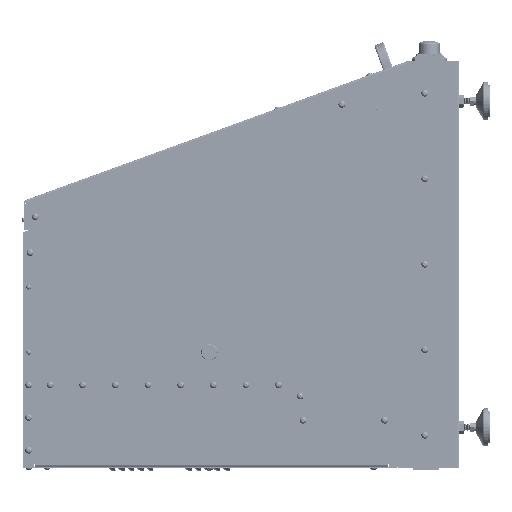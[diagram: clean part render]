
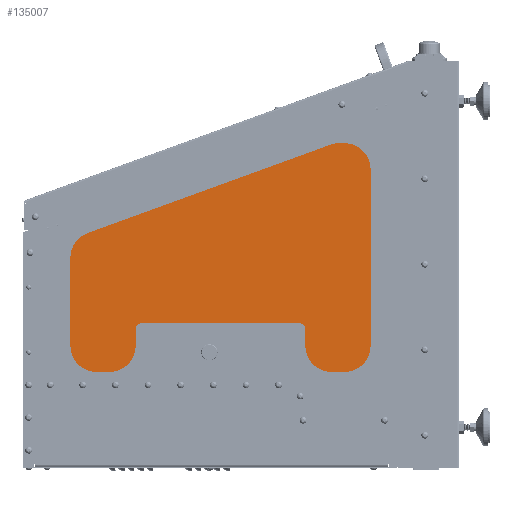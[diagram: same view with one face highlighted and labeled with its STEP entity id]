
A CAD part, left-side view. The second image highlights one B-rep face of the part: STEP entity #135007.
In plain terms, the highlighted planar face has unit normal (-1, 0, 0).
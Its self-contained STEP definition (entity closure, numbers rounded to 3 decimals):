
#78347 = DIRECTION ( 'NONE',  ( 0., -1., 0. ) ) ;
#78348 = VECTOR ( 'NONE', #78347, 1000. ) ;
#78349 = CARTESIAN_POINT ( 'NONE',  ( -328.028, -96.867, -105.254 ) ) ;
#78350 = LINE ( 'NONE', #78349, #78348 ) ;
#78352 = CARTESIAN_POINT ( 'NONE',  ( -328.028, -96.867, -105.254 ) ) ;
#78380 = DIRECTION ( 'NONE',  ( 0., 0., -1. ) ) ;
#78381 = DIRECTION ( 'NONE',  ( 1., 0., 0. ) ) ;
#78382 = CARTESIAN_POINT ( 'NONE',  ( -328.028, 101.133, -443.754 ) ) ;
#78383 = AXIS2_PLACEMENT_3D ( 'NONE', #78382, #78381, #78380 ) ;
#78384 = CIRCLE ( 'NONE', #78383, 17.5 ) ;
#78410 = CARTESIAN_POINT ( 'NONE',  ( -328.028, -161.867, -105.254 ) ) ;
#78415 = CARTESIAN_POINT ( 'NONE',  ( -328.028, -161.867, -485.754 ) ) ;
#78436 = CARTESIAN_POINT ( 'NONE',  ( -328.028, 101.133, -461.254 ) ) ;
#78437 = CARTESIAN_POINT ( 'NONE',  ( -328.028, 101.133, -426.254 ) ) ;
#78458 = DIRECTION ( 'NONE',  ( 0., -0.942, 0.335 ) ) ;
#78459 = VECTOR ( 'NONE', #78458, 1000. ) ;
#78460 = CARTESIAN_POINT ( 'NONE',  ( -328.028, 328.133, -256.254 ) ) ;
#78461 = LINE ( 'NONE', #78460, #78459 ) ;
#78462 = CARTESIAN_POINT ( 'NONE',  ( -328.028, 328.133, -256.254 ) ) ;
#78473 = DIRECTION ( 'NONE',  ( 0., 1., 0. ) ) ;
#78474 = VECTOR ( 'NONE', #78473, 1000. ) ;
#78475 = CARTESIAN_POINT ( 'NONE',  ( -328.028, -161.867, -485.754 ) ) ;
#78476 = LINE ( 'NONE', #78475, #78474 ) ;
#78499 = CARTESIAN_POINT ( 'NONE',  ( -328.028, 328.133, -485.754 ) ) ;
#78521 = DIRECTION ( 'NONE',  ( 0., 0., 1. ) ) ;
#78522 = VECTOR ( 'NONE', #78521, 1000. ) ;
#78523 = CARTESIAN_POINT ( 'NONE',  ( -328.028, 328.133, -485.754 ) ) ;
#78524 = LINE ( 'NONE', #78523, #78522 ) ;
#78525 = DIRECTION ( 'NONE',  ( 0., 0., -1. ) ) ;
#78526 = DIRECTION ( 'NONE',  ( 1., 0., 0. ) ) ;
#78527 = CARTESIAN_POINT ( 'NONE',  ( -328.028, -161.867, -105.254 ) ) ;
#78528 = AXIS2_PLACEMENT_3D ( 'NONE', #78527, #78526, #78525 ) ;
#78529 = PLANE ( 'NONE',  #78528 ) ;
#78530 = FACE_OUTER_BOUND ( 'NONE', #135106, .T. ) ;
#78531 = FACE_BOUND ( 'NONE', #135011, .T. ) ;
#78538 = DIRECTION ( 'NONE',  ( 0., 0., -1. ) ) ;
#78539 = VECTOR ( 'NONE', #78538, 1000. ) ;
#78540 = CARTESIAN_POINT ( 'NONE',  ( -328.028, -161.867, -105.254 ) ) ;
#78541 = LINE ( 'NONE', #78540, #78539 ) ;
#78545 = DIRECTION ( 'NONE',  ( 0., 0., -1. ) ) ;
#78546 = DIRECTION ( 'NONE',  ( 1., 0., 0. ) ) ;
#78547 = CARTESIAN_POINT ( 'NONE',  ( -328.028, 101.133, -443.754 ) ) ;
#78548 = AXIS2_PLACEMENT_3D ( 'NONE', #78547, #78546, #78545 ) ;
#78549 = CIRCLE ( 'NONE', #78548, 17.5 ) ;
#134770 = VERTEX_POINT ( 'NONE', #78352 ) ;
#134775 = EDGE_CURVE ( 'NONE', #134770, #134780, #78350, .T. ) ;
#134780 = VERTEX_POINT ( 'NONE', #78410 ) ;
#134821 = EDGE_CURVE ( 'NONE', #134825, #134827, #78384, .T. ) ;
#134825 = VERTEX_POINT ( 'NONE', #78437 ) ;
#134827 = VERTEX_POINT ( 'NONE', #78436 ) ;
#134862 = VERTEX_POINT ( 'NONE', #78415 ) ;
#134875 = EDGE_CURVE ( 'NONE', #134862, #134946, #78476, .T. ) ;
#134895 = VERTEX_POINT ( 'NONE', #78462 ) ;
#134902 = EDGE_CURVE ( 'NONE', #134895, #134770, #78461, .T. ) ;
#134946 = VERTEX_POINT ( 'NONE', #78499 ) ;
#134993 = EDGE_CURVE ( 'NONE', #134780, #134862, #78541, .T. ) ;
#135007 = ADVANCED_FACE ( 'NONE', ( #78531, #78530 ), #78529, .F. ) ;
#135011 = EDGE_LOOP ( 'NONE', ( #135016, #135098 ) ) ;
#135016 = ORIENTED_EDGE ( 'NONE', *, *, #135097, .T. ) ;
#135027 = EDGE_CURVE ( 'NONE', #134946, #134895, #78524, .T. ) ;
#135097 = EDGE_CURVE ( 'NONE', #134827, #134825, #78549, .T. ) ;
#135098 = ORIENTED_EDGE ( 'NONE', *, *, #134821, .T. ) ;
#135106 = EDGE_LOOP ( 'NONE', ( #135111, #135115, #135119, #135125, #135133 ) ) ;
#135111 = ORIENTED_EDGE ( 'NONE', *, *, #134775, .F. ) ;
#135115 = ORIENTED_EDGE ( 'NONE', *, *, #134902, .F. ) ;
#135119 = ORIENTED_EDGE ( 'NONE', *, *, #135027, .F. ) ;
#135125 = ORIENTED_EDGE ( 'NONE', *, *, #134875, .F. ) ;
#135133 = ORIENTED_EDGE ( 'NONE', *, *, #134993, .F. ) ;
